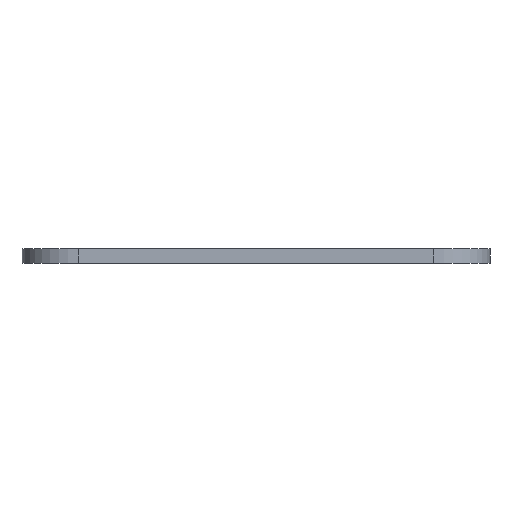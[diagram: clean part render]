
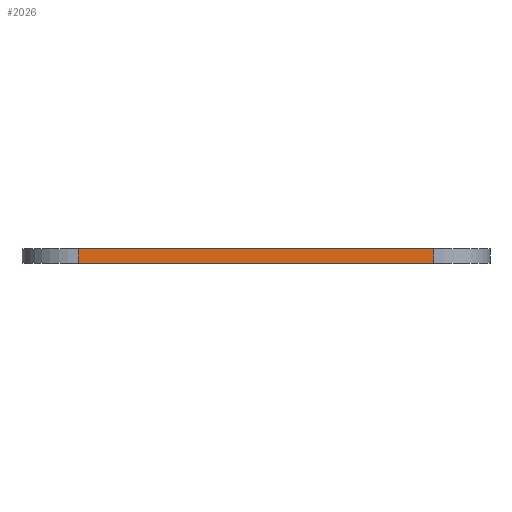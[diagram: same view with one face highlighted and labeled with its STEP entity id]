
A CAD part, front view. The second image highlights one B-rep face of the part: STEP entity #2026.
In plain terms, the highlighted planar face has unit normal (0, -1, 0).
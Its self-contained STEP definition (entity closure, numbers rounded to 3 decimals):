
#69=PLANE('',#2157);
#164=FACE_OUTER_BOUND('',#262,.T.);
#262=EDGE_LOOP('',(#1493,#1494,#1495,#1496));
#426=LINE('',#2851,#698);
#427=LINE('',#2854,#699);
#428=LINE('',#2856,#700);
#429=LINE('',#2857,#701);
#698=VECTOR('',#2341,10.);
#699=VECTOR('',#2344,10.);
#700=VECTOR('',#2345,10.);
#701=VECTOR('',#2346,10.);
#977=VERTEX_POINT('',#2844);
#980=VERTEX_POINT('',#2849);
#981=VERTEX_POINT('',#2853);
#982=VERTEX_POINT('',#2855);
#1188=EDGE_CURVE('',#980,#977,#426,.T.);
#1189=EDGE_CURVE('',#981,#980,#427,.T.);
#1190=EDGE_CURVE('',#982,#981,#428,.T.);
#1191=EDGE_CURVE('',#977,#982,#429,.T.);
#1493=ORIENTED_EDGE('',*,*,#1188,.F.);
#1494=ORIENTED_EDGE('',*,*,#1189,.F.);
#1495=ORIENTED_EDGE('',*,*,#1190,.F.);
#1496=ORIENTED_EDGE('',*,*,#1191,.F.);
#2026=ADVANCED_FACE('',(#164),#69,.T.);
#2157=AXIS2_PLACEMENT_3D('',#2852,#2342,#2343);
#2341=DIRECTION('',(0.,0.,-1.));
#2342=DIRECTION('center_axis',(0.,-1.,0.));
#2343=DIRECTION('ref_axis',(-1.,0.,0.));
#2344=DIRECTION('',(1.,0.,0.));
#2345=DIRECTION('',(0.,0.,1.));
#2346=DIRECTION('',(-1.,0.,0.));
#2844=CARTESIAN_POINT('',(95.,-125.,-8.));
#2849=CARTESIAN_POINT('',(95.,-125.,0.));
#2851=CARTESIAN_POINT('',(95.,-125.,0.));
#2852=CARTESIAN_POINT('Origin',(55.,-125.,0.));
#2853=CARTESIAN_POINT('',(-95.,-125.,0.));
#2854=CARTESIAN_POINT('',(-125.,-125.,0.));
#2855=CARTESIAN_POINT('',(-95.,-125.,-8.));
#2856=CARTESIAN_POINT('',(-95.,-125.,0.));
#2857=CARTESIAN_POINT('',(-125.,-125.,-8.));
